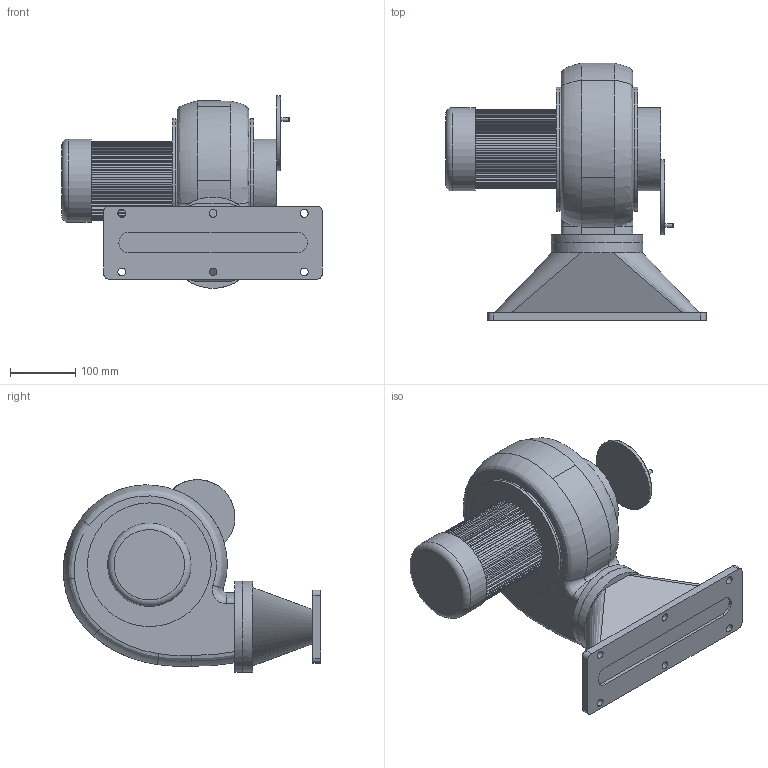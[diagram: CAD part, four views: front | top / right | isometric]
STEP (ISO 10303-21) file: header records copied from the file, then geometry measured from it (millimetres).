
FILE_DESCRIPTION(/* description */ ('Unknown'),/* implementation_level */ '2;1');
FILE_NAME(/* name */ '20200630 TS-402',/* time_stamp */ '2020-06-30T19:39:28+08:00',/* author */ ('å¤§èºè¨­è¨æéå¬å¸'),/* organization */ ('Unknown'),/* preprocessor_version */ 'ST-DEVELOPER v16.7',/* originating_system */ 'DEX',/* authorisation */ $);
FILE_SCHEMA (('AUTOMOTIVE_DESIGN {1 0 10303 214 3 1 1}'));
Length unit declared in the file: millimetre
Products named in the file (1): 20200630 TS-402
Bounding box: 399.5 x 395.02 x 295.5 mm (x, y, z)
Volume: 11144286.6 mm3; surface area: 517424.1 mm2
Topology: 1 solids, 1 shells, 298 faces, 850 edges, 567 vertices
Faces by surface type: plane 183, cylinder 88, bspline 18, cone 6, torus 3
Full cylindrical faces by diameter (mm): 4.857 x4, 6 x1, 12 x6, 115 x2, 128 x2, 140 x2, 190 x4
Entity records: 15732 total; most frequent: CARTESIAN_POINT 7999, ORIENTED_EDGE 1626, DIRECTION 1535, EDGE_CURVE 813, LINE 565, VECTOR 565, VERTEX_POINT 560, AXIS2_PLACEMENT_3D 485
